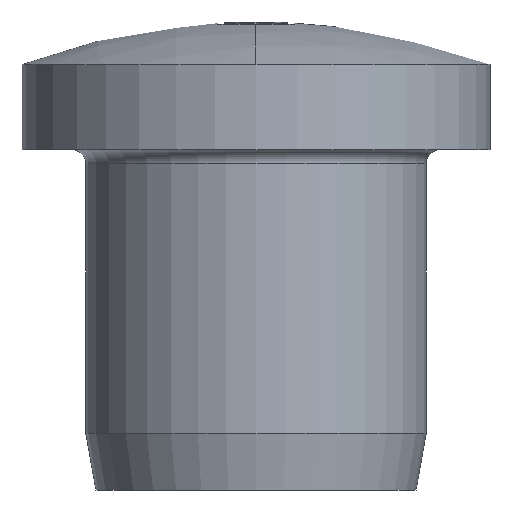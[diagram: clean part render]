
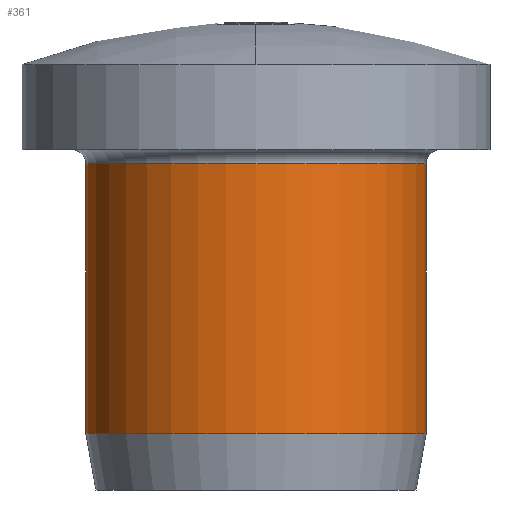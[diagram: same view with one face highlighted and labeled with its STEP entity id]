
A CAD part, front view. The second image highlights one B-rep face of the part: STEP entity #361.
In plain terms, the highlighted cylindrical face has radius 6 mm (diameter 12 mm), a partial arc.
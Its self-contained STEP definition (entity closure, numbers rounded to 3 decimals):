
#18 = VERTEX_POINT ( 'NONE', #724 ) ;
#35 = VERTEX_POINT ( 'NONE', #671 ) ;
#42 = EDGE_CURVE ( 'NONE', #50, #35, #637, .T. ) ;
#50 = VERTEX_POINT ( 'NONE', #571 ) ;
#52 = VERTEX_POINT ( 'NONE', #570 ) ;
#54 = EDGE_CURVE ( 'NONE', #52, #50, #687, .T. ) ;
#60 = EDGE_CURVE ( 'NONE', #18, #35, #630, .T. ) ;
#288 = ORIENTED_EDGE ( 'NONE', *, *, #360, .T. ) ;
#289 = ORIENTED_EDGE ( 'NONE', *, *, #60, .T. ) ;
#290 = ORIENTED_EDGE ( 'NONE', *, *, #42, .F. ) ;
#360 = EDGE_CURVE ( 'NONE', #52, #18, #1820, .T. ) ;
#361 = ADVANCED_FACE ( 'NONE', ( #1821 ), #1789, .T. ) ;
#362 = EDGE_LOOP ( 'NONE', ( #363, #288, #289, #290 ) ) ;
#363 = ORIENTED_EDGE ( 'NONE', *, *, #54, .F. ) ;
#570 = CARTESIAN_POINT ( 'NONE',  ( -6., 0., -14.5 ) ) ;
#571 = CARTESIAN_POINT ( 'NONE',  ( -6., 0., -5. ) ) ;
#627 = DIRECTION ( 'NONE',  ( 0., 0., 1. ) ) ;
#628 = VECTOR ( 'NONE', #627, 1000. ) ;
#629 = CARTESIAN_POINT ( 'NONE',  ( 6., 0., 0. ) ) ;
#630 = LINE ( 'NONE', #629, #628 ) ;
#637 = CIRCLE ( 'NONE', #666, 6. ) ;
#663 = DIRECTION ( 'NONE',  ( 1., 0., 0. ) ) ;
#664 = DIRECTION ( 'NONE',  ( 0., 0., 1. ) ) ;
#665 = CARTESIAN_POINT ( 'NONE',  ( 0., 0., -5. ) ) ;
#666 = AXIS2_PLACEMENT_3D ( 'NONE', #665, #664, #663 ) ;
#671 = CARTESIAN_POINT ( 'NONE',  ( 6., 0., -5. ) ) ;
#684 = DIRECTION ( 'NONE',  ( 0., 0., 1. ) ) ;
#685 = VECTOR ( 'NONE', #684, 1000. ) ;
#686 = CARTESIAN_POINT ( 'NONE',  ( -6., 0., 0. ) ) ;
#687 = LINE ( 'NONE', #686, #685 ) ;
#724 = CARTESIAN_POINT ( 'NONE',  ( 6., 0., -14.5 ) ) ;
#1786 = DIRECTION ( 'NONE',  ( 1., 0., 0. ) ) ;
#1787 = DIRECTION ( 'NONE',  ( 0., 0., 1. ) ) ;
#1788 = AXIS2_PLACEMENT_3D ( 'NONE', #1816, #1787, #1786 ) ;
#1789 = CYLINDRICAL_SURFACE ( 'NONE', #1788, 6. ) ;
#1816 = CARTESIAN_POINT ( 'NONE',  ( 0., 0., 0. ) ) ;
#1817 = DIRECTION ( 'NONE',  ( 1., 0., 0. ) ) ;
#1818 = DIRECTION ( 'NONE',  ( 0., 0., 1. ) ) ;
#1819 = AXIS2_PLACEMENT_3D ( 'NONE', #1824, #1818, #1817 ) ;
#1820 = CIRCLE ( 'NONE', #1819, 6. ) ;
#1821 = FACE_OUTER_BOUND ( 'NONE', #362, .T. ) ;
#1824 = CARTESIAN_POINT ( 'NONE',  ( 0., 0., -14.5 ) ) ;
